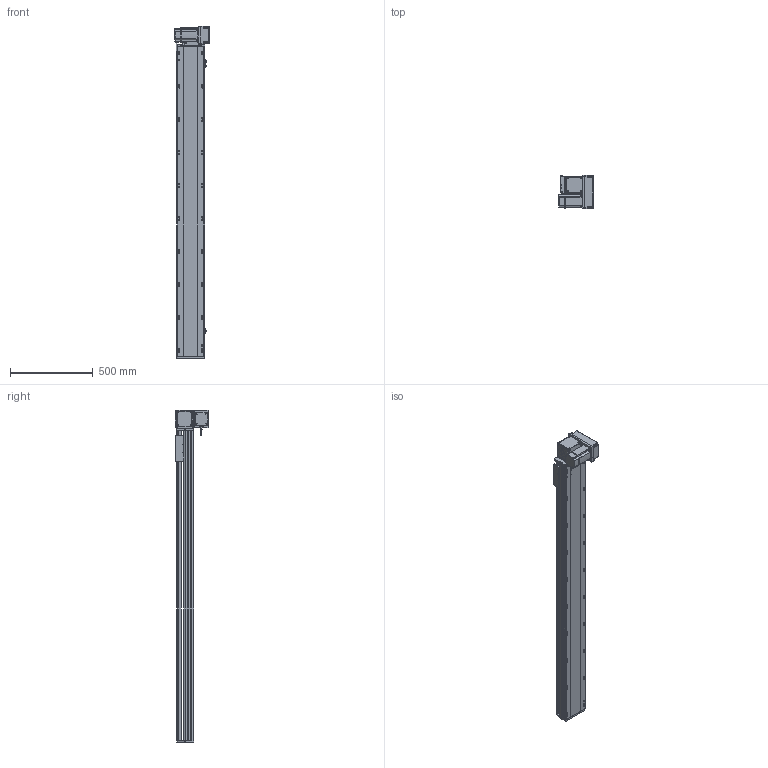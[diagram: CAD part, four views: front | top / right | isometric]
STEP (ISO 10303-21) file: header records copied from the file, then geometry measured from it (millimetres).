
FILE_DESCRIPTION (( 'STEP AP214' ), '1' );
FILE_NAME ('RTB17S-XX-1600-RM-M75-C4.STEP', '2025-12-12T02:09:49', ( '' ), ( '' ), 'SwSTEP 2.0', 'SolidWorks 2018', '' );
FILE_SCHEMA (( 'AUTOMOTIVE_DESIGN' ));
Length unit declared in the file: millimetre
Products named in the file (15): RTB17-R-011菁釱^RTB17S-XX-XX-RM-M75-C4; RTB17S-L-007奻裔^RTB17S-XX-XX-RM-M75-C4; RTB22S-GY-005P^RTB17S-RM-々湍釱蚾饜-750W_RTB17S-XX-XX-RM-M75-C4; RTB22S-GY-017P^RTB17S-RM-々湍釱蚾饜-750W_RTB17S-XX-XX-RM-M75-C4; RTB17S-L-014-T20-P75--々湍釱^RTB17S-RM-々湍釱蚾饜-750W_RTB17S-XX-XX-RM-M75-C4; 750W萇儂^RTB17S-XX-XX-RM-M75-C4; RTH13-BL-012覜茼え俋离^RTB17S-賑釱_RTB17S-XX-XX-RM-M75-C4; RTB17S-XX-1600-RM-M75-C4; RTB17S-RM-々湍釱蚾饜-750W^RTB17S-XX-XX-RM-M75-C4; RTB17S-賑釱^RTB17S-XX-XX-RM-M75-C4; RTB17S-L-001-耜醱啣^RTB17S-XX-XX-RM-M75-C4; RTB22S-GY-018P^RTB17S-RM-々湍釱蚾饜-750W_RTB17S-XX-XX-RM-M75-C4; EE672^RTB17S-XX-XX-RM-M75-C4; RTB22S-GY-008-M75--萇儂啣^RTB17S-RM-々湍釱蚾饜-750W_RTB17S-XX-XX-RM-M75-C4; RTB17S-L-004-賑釱^RTB17S-賑釱_RTB17S-XX-XX-RM-M75-C4
Assembly tree (17 placements, depth 3):
  RTB17S-XX-1600-RM-M75-C4
    RTB17-R-011菁釱^RTB17S-XX-XX-RM-M75-C4
    EE672^RTB17S-XX-XX-RM-M75-C4  x3
    RTB17S-L-001-耜醱啣^RTB17S-XX-XX-RM-M75-C4
    RTB17S-賑釱^RTB17S-XX-XX-RM-M75-C4
      RTB17S-L-004-賑釱^RTB17S-賑釱_RTB17S-XX-XX-RM-M75-C4
      RTH13-BL-012覜茼え俋离^RTB17S-賑釱_RTB17S-XX-XX-RM-M75-C4
    RTB17S-L-007奻裔^RTB17S-XX-XX-RM-M75-C4
    750W萇儂^RTB17S-XX-XX-RM-M75-C4
    RTB17S-RM-々湍釱蚾饜-750W^RTB17S-XX-XX-RM-M75-C4
      RTB17S-L-014-T20-P75--々湍釱^RTB17S-RM-々湍釱蚾饜-750W_RTB17S-XX-XX-RM-M75-C4
      RTB22S-GY-005P^RTB17S-RM-々湍釱蚾饜-750W_RTB17S-XX-XX-RM-M75-C4
      RTB22S-GY-017P^RTB17S-RM-々湍釱蚾饜-750W_RTB17S-XX-XX-RM-M75-C4  x2
      RTB22S-GY-008-M75--萇儂啣^RTB17S-RM-々湍釱蚾饜-750W_RTB17S-XX-XX-RM-M75-C4
      RTB22S-GY-018P^RTB17S-RM-々湍釱蚾饜-750W_RTB17S-XX-XX-RM-M75-C4
Bounding box: 207.4 x 200 x 2007.5 mm (x, y, z)
Volume: 15954455.5 mm3; surface area: 2807017.3 mm2
Topology: 17 solids, 17 shells, 2137 faces, 5944 edges, 3842 vertices
Faces by surface type: plane 976, cylinder 745, bspline 294, cone 110, sphere 8, torus 4
Entity records: 60406 total; most frequent: CARTESIAN_POINT 17808, ORIENTED_EDGE 8732, DIRECTION 8132, EDGE_CURVE 4366, AXIS2_PLACEMENT_3D 2862, VERTEX_POINT 2846, VECTOR 2408, LINE 2408
